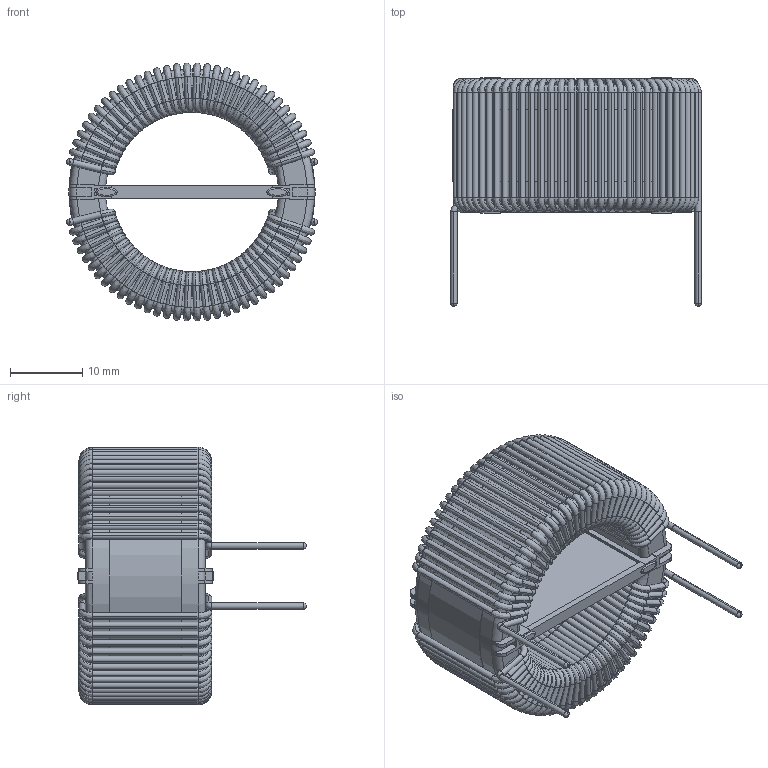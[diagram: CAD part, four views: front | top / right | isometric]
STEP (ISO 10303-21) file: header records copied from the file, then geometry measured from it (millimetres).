
FILE_DESCRIPTION (( 'STEP AP203' ), '1' );
FILE_NAME ('HN-H-703U-5A.STEP', '2020-07-09T10:31:58', ( 'Windows User' ), ( '' ), 'SwSTEP 2.0', 'SolidWorks 2015', '' );
FILE_SCHEMA (( 'CONFIG_CONTROL_DESIGN' ));
Length unit declared in the file: inch
Products named in the file (4): HN-H-703U-5A - CORE; HN-H-703U-5A - COIL; HN-H-703U-5A; HN-H-703U-5A - FRAME
Assembly tree (3 placements, depth 2):
  HN-H-703U-5A
    HN-H-703U-5A - CORE
    HN-H-703U-5A - COIL
    HN-H-703U-5A - FRAME
Bounding box: 34.79 x 31.65 x 35.77 mm (x, y, z)
Volume: 10070.3 mm3; surface area: 15863 mm2
Topology: 13 solids, 13 shells, 1389 faces, 4089 edges, 2720 vertices
Faces by surface type: cylinder 679, torus 302, bspline 296, plane 112
Entity records: 70417 total; most frequent: CARTESIAN_POINT 33042, ORIENTED_EDGE 8170, DIRECTION 8125, EDGE_CURVE 4085, AXIS2_PLACEMENT_3D 3585, VERTEX_POINT 2720, CIRCLE 2486, EDGE_LOOP 1391
